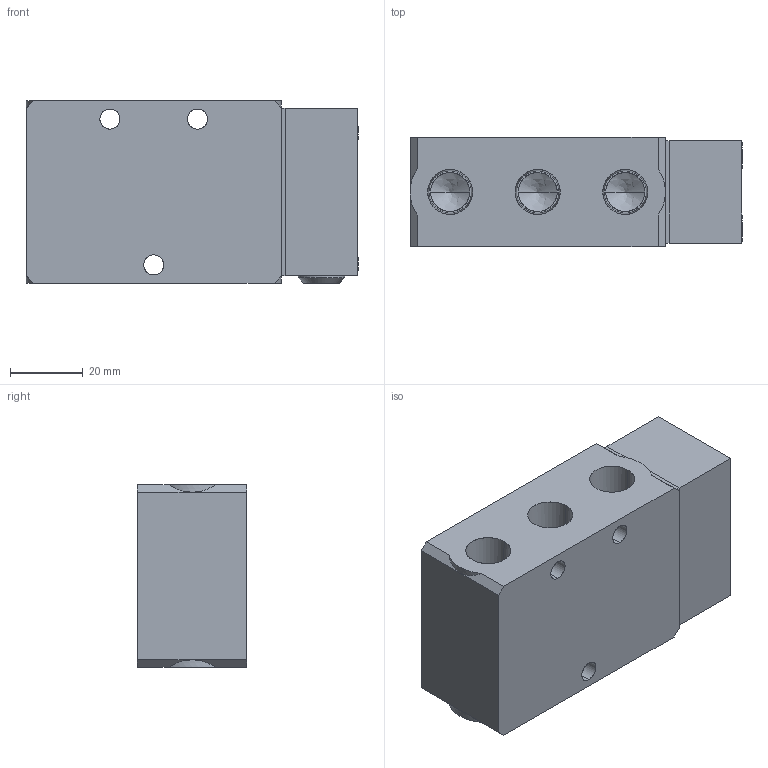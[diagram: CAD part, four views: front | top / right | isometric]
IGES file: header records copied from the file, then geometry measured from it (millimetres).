
Start section: SolidWorks IGES file using analytic representation for surfaces
Global section: file name: D:\Custom\3D繪製\VM\V06,10\VS2406-02.IGS,1; native system: 5HSolidWorks 2014; preprocessor: SolidWorks 2014; author: Chieh_Lu; date: 160114.024022; units: millimetre
Bounding box: 91 x 30.1 x 50 mm (x, y, z)
Surface area: 30634.5 mm2 (no closed solid volume)
Topology: 0 solids, 0 shells, 507 faces, 5304 edges, 5277 vertices
Faces by surface type: bspline 354, revolution 153
